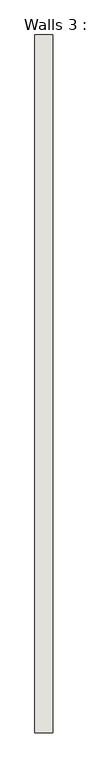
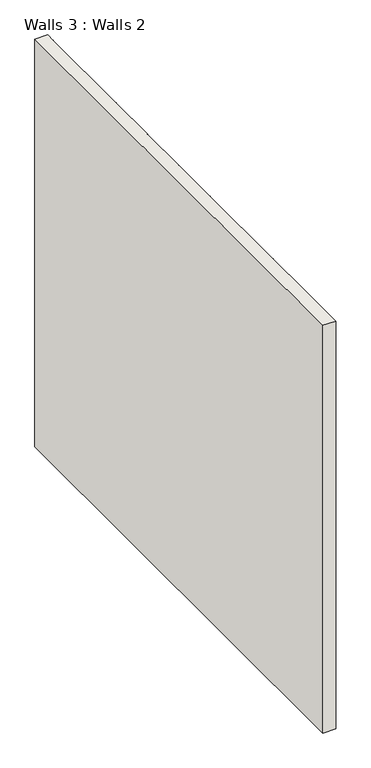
"""IFC4 building model written with IfcOpenShell, lengths in millimetres: wall geometry, Walls 3 : Walls 2."""

from ifc_helpers import new_model, si_unit, frame, origin, place, context, project, spatial, polyline, outline, extrude, source, transform, mapped, element, save


def walls_3_walls_2_133da783(model_context):
    return source(origin(), model_context, "Body", "SweptSolid", [
        extrude(outline(polyline([(19630.7196405, 465.1548166), (19630.7196405, 3904.1688155), (19717.7196405, 3904.1688155), (19717.7196405, 3840.1548166), (19719.5996405, 3838.2748166), (19717.7196405, 3836.3948166), (19717.7196405, 3465.1548166), (19719.5996405, 3463.2748166), (19717.7196405, 3461.3948166), (19717.7196405, 3090.1548166), (19719.5996405, 3088.2748166), (19717.7196405, 3086.3948166), (19717.7196405, 2715.1548166), (19719.5996405, 2713.2748166), (19717.7196405, 2711.3948166), (19717.7196405, 2340.1548166), (19719.5996405, 2338.2748166), (19717.7196405, 2336.3948166), (19717.7196405, 1965.1548166), (19719.5996405, 1963.2748166), (19717.7196405, 1961.3948166), (19717.7196405, 1590.1548166), (19719.5996405, 1588.2748166), (19717.7196405, 1586.3948166), (19717.7196405, 1215.1548166), (19719.5996405, 1213.2748166), (19717.7196405, 1211.3948166), (19717.7196405, 840.1548166), (19719.5996405, 838.2748166), (19717.7196405, 836.3948166), (19717.7196405, 465.1548166), (19630.7196405, 465.1548166)])), frame((0.0, 0.0, 340.0), z_axis=(0.0, 0.0, 1.0), x_axis=(1.0, 0.0, 0.0)), (0.0, 0.0, 1.0), 2971.0),
    ])


if __name__ == "__main__":
    model = new_model("IFC4")
    model_context = context("Model", 3, world=origin())
    ifc_project = project(units=[si_unit("LENGTHUNIT", "METRE", prefix="MILLI")], contexts=[model_context])
    site = spatial("IfcSite", under=ifc_project)
    building = spatial("IfcBuilding", under=site)
    placement = place(None, origin())
    walls_3_walls_2_shape = walls_3_walls_2_133da783(model_context)
    element("IfcWall", 1, ObjectType="Walls 3 : Walls 2", at=placement, inside=building, context=model_context, shape_type="MappedRepresentation", body=[
        mapped(walls_3_walls_2_shape, transform((0.0, 0.0, 0.0), x_axis=(1.0, 0.0, 0.0), y_axis=(0.0, 1.0, 0.0), z_axis=(0.0, 0.0, 1.0))),
    ])
    save(model, "model.ifc")
